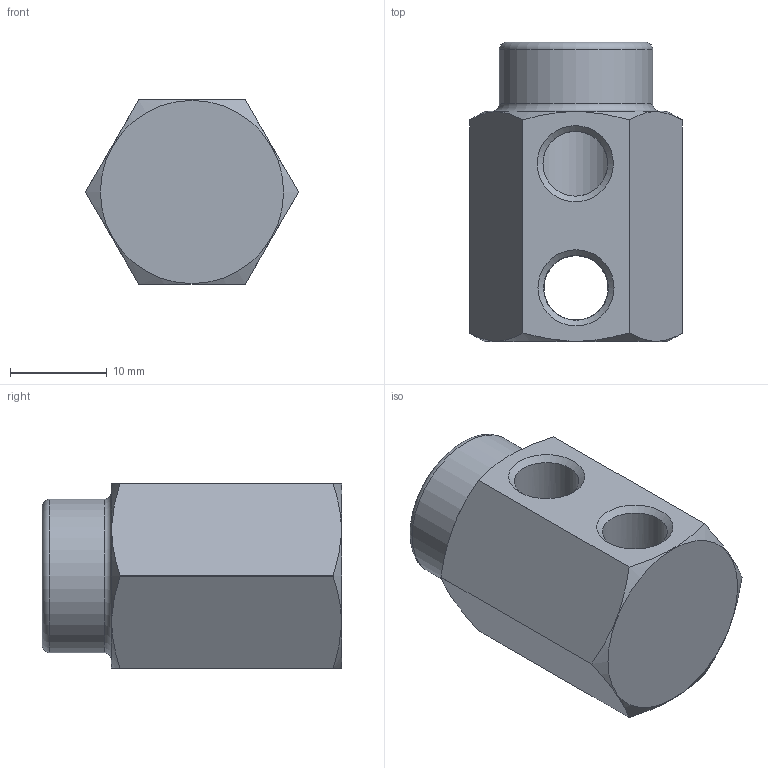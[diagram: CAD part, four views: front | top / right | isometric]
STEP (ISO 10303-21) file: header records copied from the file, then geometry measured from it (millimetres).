
FILE_DESCRIPTION(/* description */ (''),/* implementation_level */ '2;1');
FILE_NAME(/* name */ 'C:/Users/drich/Desktop/16H-HFT v1.step',/* time_stamp */ '2020-01-10T20:23:34-06:00',/* author */ (''),/* organization */ (''),/* preprocessor_version */ 'ST-DEVELOPER v18',/* originating_system */ 'Autodesk Translation Framework v8.12.0.6',/* authorisation */ '');
FILE_SCHEMA (('AUTOMOTIVE_DESIGN { 1 0 10303 214 3 1 1 }'));
Length unit declared in the file: inch
Products named in the file (2): 16H-HFT; 16H
Assembly tree (1 placements, depth 2):
  16H-HFT
    16H
Bounding box: 22 x 30.94 x 19.05 mm (x, y, z)
Volume: 6844.3 mm3; surface area: 3333.3 mm2
Topology: 1 solids, 1 shells, 34 faces, 97 edges, 65 vertices
Faces by surface type: cylinder 12, cone 11, plane 9, torus 2
Full cylindrical faces by diameter (mm): 5.474 x1, 6.697 x3, 8.707 x1, 15.875 x1
Entity records: 1286 total; most frequent: CARTESIAN_POINT 345, ORIENTED_EDGE 194, DIRECTION 189, EDGE_CURVE 97, AXIS2_PLACEMENT_3D 82, VERTEX_POINT 65, CIRCLE 45, EDGE_LOOP 40
